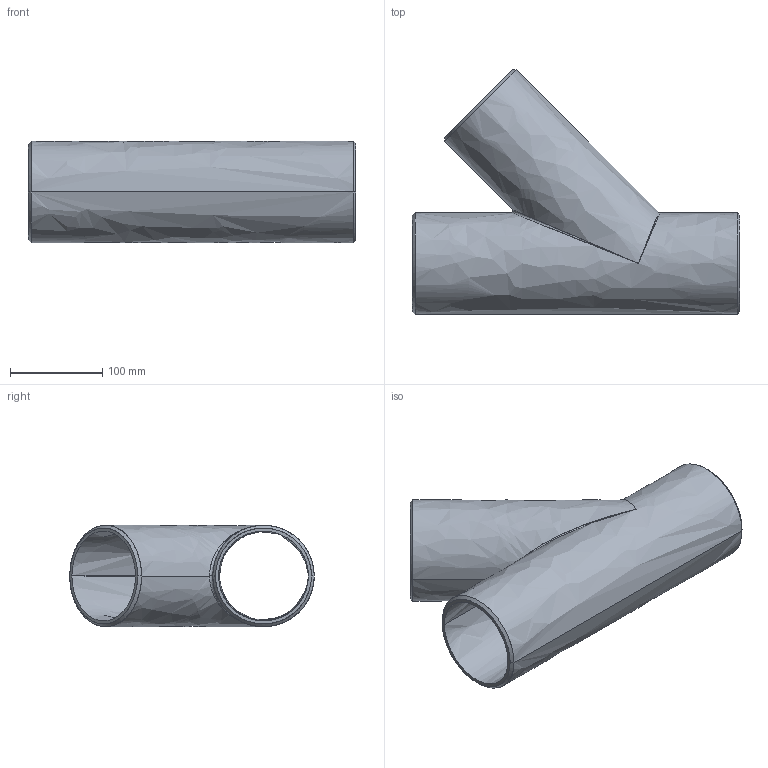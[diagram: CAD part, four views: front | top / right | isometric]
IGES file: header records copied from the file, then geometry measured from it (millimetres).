
Start section:  PTC IGES file: ats45_d110.igs
Global section: file name: ats45_d110.igs; native system: Pro/ENGINEER by Parametric Technology Corporation; preprocessor: 2011490; author: mtunjic; organization: Unknown; date: 20130724.093639; units: millimetre
Bounding box: 355 x 265.01 x 110 mm (x, y, z)
Surface area: 355300.8 mm2 (no closed solid volume)
Topology: 0 solids, 0 shells, 22 faces, 106 edges, 106 vertices
Faces by surface type: bspline 22
